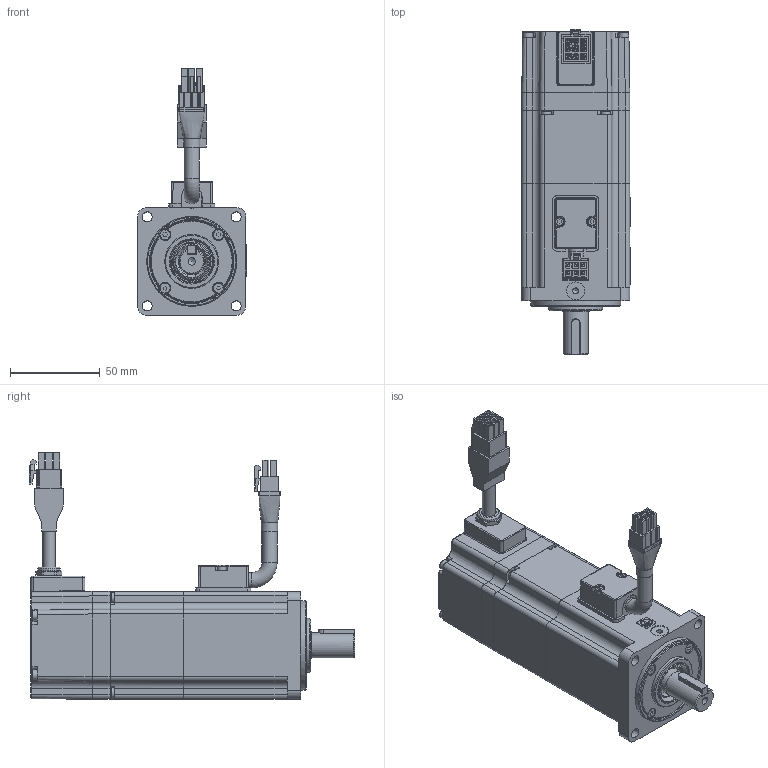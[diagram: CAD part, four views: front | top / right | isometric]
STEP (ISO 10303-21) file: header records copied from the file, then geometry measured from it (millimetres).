
FILE_DESCRIPTION( ( 'Unknown' ), '1' );
FILE_NAME( 'X:/05_Progetto TCE/010-TCE motor drawings/TCE60/vuoti/TCE60 2A XX 3 A1 1 D0.stp', 'Unknown', ( 'Unknown' ), ( 'Unknown' ), 'PSStep 17.0.49', 'Unknown', ' ' );
FILE_SCHEMA( ( 'AUTOMOTIVE_DESIGN { 1 0 10303 214 1 1 1 1 }' ) );
Length unit declared in the file: millimetre
Products named in the file (54): 003108015152_curva; 003303000376; 005453000452_D8,5; U5100003_vuoto; 003120002511; 005911000598; 001799000503; 007102000210; 001107000618; cavo cablato x campana TCE - SICK; 003303000025; 003711000103; 005603001004; Assem1; 005123000690; 005123000100; 003251022005; 003103001508; 005204000004; 005204000002; 005204000001; 005008000960-oa0; 005008000958-oa1; 005008000958-oa2; 005008000400-oa3; 005911003621; 005911003622; 005911000262; 005008000906-oa4; 003155002051; 005911000491; 003155002052; 005113000362; 005119001312; 003003050089
Assembly tree (66 placements, depth 4):
  Assem1
    005123000690
    005123000690
    005123000690
    005123000690
    005123000690
    005123000690
    005123000690
    005123000690
    005123000100
    005123000100
    005123000100
    005123000100
    005123000100
    005123000100
    005123000100
    003251022005
    003103001508
    005204000004
    005204000002
    005204000001
    005008000960-oa0
    005008000958-oa1
    005008000958-oa2
    005008000400-oa3
    005911003621  x4
    005911003622  x4
    005911000262  x4
    005008000906-oa4
    003155002051
    005911000491  x4
    003155002052
    005113000362
    005119001312
    005119001312
    003003050089
    007102000210
      001107000618
      cavo cablato x campana TCE - SICK
      cavo cablato x campana TCE - SICK
      003303000025
      003711000103
      005603001004
    U5100003_vuoto
      003120002511
      003120002511
      005911000598  x2
      001799000503
      003108015152_curva
        003303000376
        005453000452_D8,5
        003108015152_curva
        003108015152_curva
        003108015152_curva
Bounding box: 60.3 x 180.9 x 137.2 mm (x, y, z)
Volume: 221341.5 mm3; surface area: 153656.6 mm2
Topology: 63 solids, 63 shells, 2420 faces, 6050 edges, 3874 vertices
Faces by surface type: plane 1399, cylinder 526, bspline 145, torus 141, cone 136, extrusion 37, sphere 36
Full cylindrical faces by diameter (mm): 1 x1, 2.013 x3, 2.459 x37, 2.5 x2, 2.6 x13, 2.7 x2, 3 x16, 3.242 x4, 3.5 x20, 4.134 x2, 4.7 x2, 5.5 x13, 6 x3, 6.5 x1, 6.8 x1, 7 x1, 7.1 x1, 7.2 x2, 7.25 x1, 8.1 x1, 8.5 x2, 8.51 x1, 9.11 x1, 9.98 x1, 10 x4, 10.3 x2, 10.647 x1, 12 x2, 12.7 x1, 14 x2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
Entity records: 98506 total; most frequent: CARTESIAN_POINT 29311, ORIENTED_EDGE 10292, DIRECTION 10227, EDGE_CURVE 5146, VERTEX_POINT 3530, AXIS2_PLACEMENT_3D 3467, VECTOR 3293, LINE 3256
